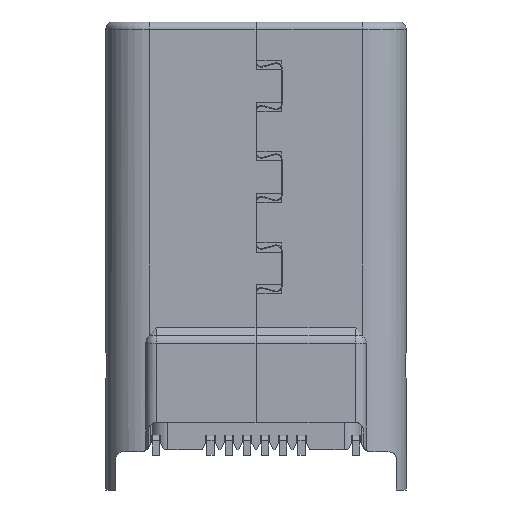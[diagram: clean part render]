
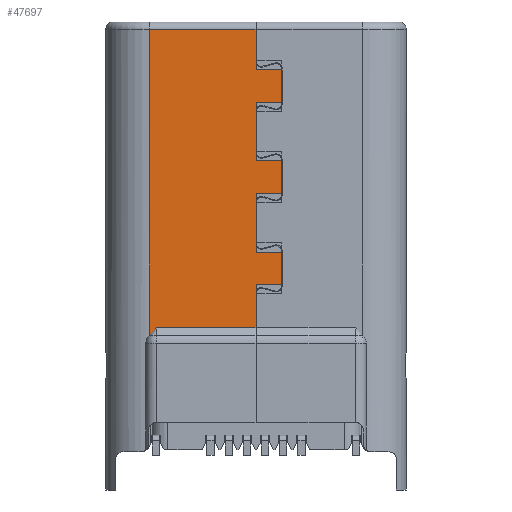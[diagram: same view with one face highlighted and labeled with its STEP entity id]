
A CAD part, front view. The second image highlights one B-rep face of the part: STEP entity #47697.
In plain terms, the highlighted planar face has unit normal (0, -1, 0).
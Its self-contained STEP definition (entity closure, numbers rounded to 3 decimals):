
#43902=CARTESIAN_POINT('',(-2.925,-1.2,2.15));
#43903=VERTEX_POINT('',#43902);
#43913=CARTESIAN_POINT('',(-2.925,-1.2,10.55));
#43914=VERTEX_POINT('',#43913);
#43915=CARTESIAN_POINT('',(-2.925,-1.2,10.55));
#43916=DIRECTION('',(0.0,-0.0,-1.0));
#43917=VECTOR('',#43916,1.0);
#43918=LINE('',#43915,#43917);
#43919=EDGE_CURVE('no 43080',#43914,#43903,#43918,.T.);
#46582=CARTESIAN_POINT('',(0.7,-1.2,9.435));
#46583=VERTEX_POINT('',#46582);
#46590=CARTESIAN_POINT('',(0.7,-1.2,8.535));
#46591=VERTEX_POINT('',#46590);
#46592=CARTESIAN_POINT('',(0.7,-1.2,9.435));
#46593=DIRECTION('',(0.0,0.0,-1.0));
#46594=VECTOR('',#46593,1.0);
#46595=LINE('',#46592,#46594);
#46596=EDGE_CURVE('no 10444',#46583,#46591,#46595,.T.);
#46720=CARTESIAN_POINT('',(0.,-1.2,8.535));
#46721=VERTEX_POINT('',#46720);
#46728=CARTESIAN_POINT('',(0.,-1.2,6.935));
#46729=VERTEX_POINT('',#46728);
#46730=CARTESIAN_POINT('',(0.,-1.2,8.535));
#46731=DIRECTION('',(0.0,0.0,-1.0));
#46732=VECTOR('',#46731,1.0);
#46733=LINE('',#46730,#46732);
#46734=EDGE_CURVE('no 17018',#46721,#46729,#46733,.T.);
#46840=CARTESIAN_POINT('',(0.7,-1.2,6.935));
#46841=VERTEX_POINT('',#46840);
#46850=CARTESIAN_POINT('',(0.7,-1.2,6.035));
#46851=VERTEX_POINT('',#46850);
#46852=CARTESIAN_POINT('',(0.7,-1.2,6.935));
#46853=DIRECTION('',(0.0,0.0,-1.0));
#46854=VECTOR('',#46853,1.0);
#46855=LINE('',#46852,#46854);
#46856=EDGE_CURVE('no 13326',#46841,#46851,#46855,.T.);
#46980=CARTESIAN_POINT('',(0.,-1.2,6.035));
#46981=VERTEX_POINT('',#46980);
#46988=CARTESIAN_POINT('',(0.,-1.2,4.435));
#46989=VERTEX_POINT('',#46988);
#46990=CARTESIAN_POINT('',(0.,-1.2,6.035));
#46991=DIRECTION('',(0.0,0.0,-1.0));
#46992=VECTOR('',#46991,1.0);
#46993=LINE('',#46990,#46992);
#46994=EDGE_CURVE('no 30429',#46981,#46989,#46993,.T.);
#47100=CARTESIAN_POINT('',(0.7,-1.2,4.435));
#47101=VERTEX_POINT('',#47100);
#47110=CARTESIAN_POINT('',(0.7,-1.2,3.535));
#47111=VERTEX_POINT('',#47110);
#47112=CARTESIAN_POINT('',(0.7,-1.2,4.435));
#47113=DIRECTION('',(0.0,0.0,-1.0));
#47114=VECTOR('',#47113,1.0);
#47115=LINE('',#47112,#47114);
#47116=EDGE_CURVE('no 5892',#47101,#47111,#47115,.T.);
#47230=CARTESIAN_POINT('',(0.,-1.2,2.35));
#47231=VERTEX_POINT('',#47230);
#47306=CARTESIAN_POINT('',(0.,-1.2,3.535));
#47307=VERTEX_POINT('',#47306);
#47314=CARTESIAN_POINT('',(0.,-1.2,3.535));
#47315=DIRECTION('',(0.,0.0,-1.0));
#47316=VECTOR('',#47315,1.0);
#47317=LINE('',#47314,#47316);
#47318=EDGE_CURVE('no 48031',#47307,#47231,#47317,.T.);
#47459=CARTESIAN_POINT('',(0.0,-1.2,10.55));
#47460=VERTEX_POINT('',#47459);
#47468=CARTESIAN_POINT('',(0.,-1.2,9.435));
#47469=VERTEX_POINT('',#47468);
#47470=CARTESIAN_POINT('',(0.,-1.2,10.55));
#47471=DIRECTION('',(0.,-0.0,-1.0));
#47472=VECTOR('',#47471,1.0);
#47473=LINE('',#47470,#47472);
#47474=EDGE_CURVE('no 49054',#47460,#47469,#47473,.T.);
#47609=CARTESIAN_POINT('',(-2.725,-1.2,2.35));
#47610=VERTEX_POINT('',#47609);
#47611=CARTESIAN_POINT('',(-2.725,-1.2,2.35));
#47612=DIRECTION('',(-0.707,-0.0,-0.707));
#47613=VECTOR('',#47612,1.0);
#47614=LINE('',#47611,#47613);
#47615=EDGE_CURVE('no 12613',#47610,#43903,#47614,.T.);
#47633=CARTESIAN_POINT('',(0.,-1.2,10.55));
#47634=DIRECTION('',(-1.0,-0.0,0.0));
#47635=VECTOR('',#47634,1.0);
#47636=LINE('',#47633,#47635);
#47637=EDGE_CURVE('no 32745',#47460,#43914,#47636,.T.);
#47638=ORIENTED_EDGE('no 48832',*,*,#47637,.T.);
#47639=ORIENTED_EDGE('no 16803',*,*,#43919,.T.);
#47640=ORIENTED_EDGE('no 26035',*,*,#47615,.F.);
#47641=CARTESIAN_POINT('',(-2.725,-1.2,2.35));
#47642=DIRECTION('',(1.0,0.0,0.0));
#47643=VECTOR('',#47642,1.0);
#47644=LINE('',#47641,#47643);
#47645=EDGE_CURVE('no 43122',#47610,#47231,#47644,.T.);
#47646=ORIENTED_EDGE('no 4924',*,*,#47645,.T.);
#47647=ORIENTED_EDGE('no 30328',*,*,#47318,.F.);
#47648=CARTESIAN_POINT('',(0.7,-1.2,3.535));
#47649=DIRECTION('',(-1.0,0.0,-0.0));
#47650=VECTOR('',#47649,1.0);
#47651=LINE('',#47648,#47650);
#47652=EDGE_CURVE('no 50340',#47111,#47307,#47651,.T.);
#47653=ORIENTED_EDGE('no 40357',*,*,#47652,.F.);
#47654=ORIENTED_EDGE('no 29974',*,*,#47116,.F.);
#47655=CARTESIAN_POINT('',(0.,-1.2,4.435));
#47656=DIRECTION('',(1.0,0.0,-0.0));
#47657=VECTOR('',#47656,1.0);
#47658=LINE('',#47655,#47657);
#47659=EDGE_CURVE('no 17002',#46989,#47101,#47658,.T.);
#47660=ORIENTED_EDGE('no 37507',*,*,#47659,.F.);
#47661=ORIENTED_EDGE('no 48842',*,*,#46994,.F.);
#47662=CARTESIAN_POINT('',(0.7,-1.2,6.035));
#47663=DIRECTION('',(-1.0,0.0,-0.0));
#47664=VECTOR('',#47663,1.0);
#47665=LINE('',#47662,#47664);
#47666=EDGE_CURVE('no 42767',#46851,#46981,#47665,.T.);
#47667=ORIENTED_EDGE('no 48513',*,*,#47666,.F.);
#47668=ORIENTED_EDGE('no 14909',*,*,#46856,.F.);
#47669=CARTESIAN_POINT('',(0.,-1.2,6.935));
#47670=DIRECTION('',(1.0,0.0,-0.0));
#47671=VECTOR('',#47670,1.0);
#47672=LINE('',#47669,#47671);
#47673=EDGE_CURVE('no 24913',#46729,#46841,#47672,.T.);
#47674=ORIENTED_EDGE('no 42013',*,*,#47673,.F.);
#47675=ORIENTED_EDGE('no 16725',*,*,#46734,.F.);
#47676=CARTESIAN_POINT('',(0.7,-1.2,8.535));
#47677=DIRECTION('',(-1.0,0.0,-0.0));
#47678=VECTOR('',#47677,1.0);
#47679=LINE('',#47676,#47678);
#47680=EDGE_CURVE('no 36749',#46591,#46721,#47679,.T.);
#47681=ORIENTED_EDGE('no 31131',*,*,#47680,.F.);
#47682=ORIENTED_EDGE('no 40467',*,*,#46596,.F.);
#47683=CARTESIAN_POINT('',(0.,-1.2,9.435));
#47684=DIRECTION('',(1.0,0.0,-0.0));
#47685=VECTOR('',#47684,1.0);
#47686=LINE('',#47683,#47685);
#47687=EDGE_CURVE('no 50184',#47469,#46583,#47686,.T.);
#47688=ORIENTED_EDGE('no 19580',*,*,#47687,.F.);
#47689=ORIENTED_EDGE('no 31771',*,*,#47474,.F.);
#47690=EDGE_LOOP('',(
    #47638,#47639,#47640,#47646,#47647,#47653,#47654,#47660,#47661,#47667,
    #47668,#47674,#47675,#47681,#47682,#47688,#47689));
#47691=FACE_OUTER_BOUND('',#47690,.T.);
#47692=CARTESIAN_POINT('',(-1.112,-1.2,6.35));
#47693=DIRECTION('',(-0.0,1.0,0.0));
#47694=DIRECTION('',(1.0,0.0,0.0));
#47695=AXIS2_PLACEMENT_3D('',#47692,#47693,#47694);
#47696=PLANE('',#47695);
#47697=ADVANCED_FACE('no 48516',(#47691),#47696,.F.);
